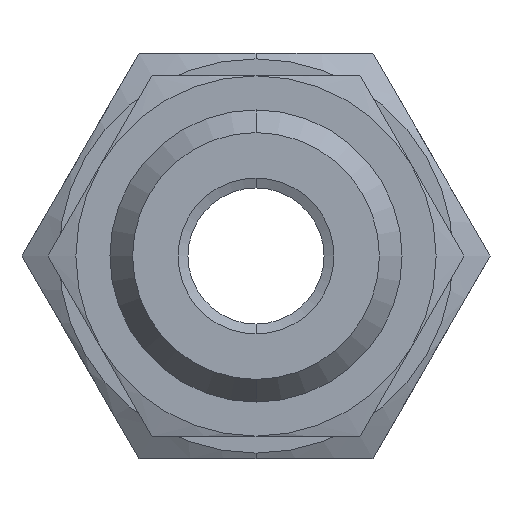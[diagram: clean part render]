
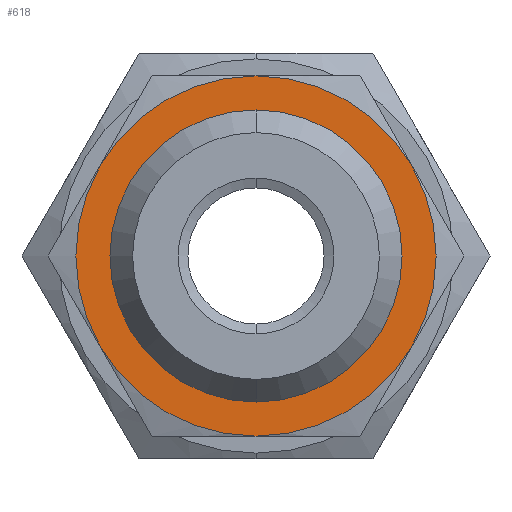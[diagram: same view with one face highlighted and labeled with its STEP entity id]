
A CAD part, left-side view. The second image highlights one B-rep face of the part: STEP entity #618.
In plain terms, the highlighted planar face has unit normal (-1, 0, 0).
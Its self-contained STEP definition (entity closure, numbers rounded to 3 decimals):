
#6 = VERTEX_POINT ( 'NONE', #566 ) ;
#85 = VERTEX_POINT ( 'NONE', #715 ) ;
#162 = VERTEX_POINT ( 'NONE', #749 ) ;
#167 = EDGE_CURVE ( 'NONE', #162, #168, #742, .T. ) ;
#168 = VERTEX_POINT ( 'NONE', #737 ) ;
#258 = VERTEX_POINT ( 'NONE', #1034 ) ;
#265 = VERTEX_POINT ( 'NONE', #1100 ) ;
#271 = VERTEX_POINT ( 'NONE', #1158 ) ;
#368 = VERTEX_POINT ( 'NONE', #1412 ) ;
#413 = EDGE_CURVE ( 'NONE', #258, #6, #1229, .T. ) ;
#420 = EDGE_CURVE ( 'NONE', #271, #258, #1223, .T. ) ;
#481 = EDGE_CURVE ( 'NONE', #85, #265, #1454, .T. ) ;
#487 = EDGE_CURVE ( 'NONE', #6, #85, #1443, .T. ) ;
#545 = EDGE_CURVE ( 'NONE', #368, #271, #1561, .T. ) ;
#550 = EDGE_CURVE ( 'NONE', #265, #368, #1550, .T. ) ;
#566 = CARTESIAN_POINT ( 'NONE',  ( 0., 0., -6.35 ) ) ;
#573 = ORIENTED_EDGE ( 'NONE', *, *, #420, .T. ) ;
#613 = EDGE_CURVE ( 'NONE', #168, #162, #1483, .T. ) ;
#614 = EDGE_LOOP ( 'NONE', ( #619, #620 ) ) ;
#618 = ADVANCED_FACE ( 'NONE', ( #1473, #1472 ), #1471, .F. ) ;
#619 = ORIENTED_EDGE ( 'NONE', *, *, #613, .F. ) ;
#620 = ORIENTED_EDGE ( 'NONE', *, *, #167, .F. ) ;
#621 = EDGE_LOOP ( 'NONE', ( #622, #623, #624, #625, #626, #573 ) ) ;
#622 = ORIENTED_EDGE ( 'NONE', *, *, #413, .T. ) ;
#623 = ORIENTED_EDGE ( 'NONE', *, *, #487, .T. ) ;
#624 = ORIENTED_EDGE ( 'NONE', *, *, #481, .T. ) ;
#625 = ORIENTED_EDGE ( 'NONE', *, *, #550, .T. ) ;
#626 = ORIENTED_EDGE ( 'NONE', *, *, #545, .T. ) ;
#715 = CARTESIAN_POINT ( 'NONE',  ( 0., -5.499, -3.175 ) ) ;
#737 = CARTESIAN_POINT ( 'NONE',  ( 0., 0., -5.15 ) ) ;
#738 = DIRECTION ( 'NONE',  ( 0., 0., -1. ) ) ;
#739 = DIRECTION ( 'NONE',  ( -1., 0., 0. ) ) ;
#740 = CARTESIAN_POINT ( 'NONE',  ( 0., 0., 0. ) ) ;
#741 = AXIS2_PLACEMENT_3D ( 'NONE', #740, #739, #738 ) ;
#742 = CIRCLE ( 'NONE', #741, 5.15 ) ;
#749 = CARTESIAN_POINT ( 'NONE',  ( 0., 0., 5.15 ) ) ;
#1034 = CARTESIAN_POINT ( 'NONE',  ( 0., 5.499, -3.175 ) ) ;
#1100 = CARTESIAN_POINT ( 'NONE',  ( 0., -5.499, 3.175 ) ) ;
#1158 = CARTESIAN_POINT ( 'NONE',  ( 0., 5.499, 3.175 ) ) ;
#1223 = CIRCLE ( 'NONE', #1340, 6.35 ) ;
#1225 = DIRECTION ( 'NONE',  ( 0., 0., 1. ) ) ;
#1226 = DIRECTION ( 'NONE',  ( -1., 0., 0. ) ) ;
#1227 = CARTESIAN_POINT ( 'NONE',  ( 0., 0., 0. ) ) ;
#1228 = AXIS2_PLACEMENT_3D ( 'NONE', #1227, #1226, #1225 ) ;
#1229 = CIRCLE ( 'NONE', #1228, 6.35 ) ;
#1337 = DIRECTION ( 'NONE',  ( 0., 0., 1. ) ) ;
#1338 = DIRECTION ( 'NONE',  ( -1., 0., 0. ) ) ;
#1339 = CARTESIAN_POINT ( 'NONE',  ( 0., 0., 0. ) ) ;
#1340 = AXIS2_PLACEMENT_3D ( 'NONE', #1339, #1338, #1337 ) ;
#1412 = CARTESIAN_POINT ( 'NONE',  ( 0., 0., 6.35 ) ) ;
#1435 = DIRECTION ( 'NONE',  ( 0., 0., 1. ) ) ;
#1436 = DIRECTION ( 'NONE',  ( -1., 0., 0. ) ) ;
#1437 = CARTESIAN_POINT ( 'NONE',  ( 0., 0., 0. ) ) ;
#1438 = AXIS2_PLACEMENT_3D ( 'NONE', #1437, #1436, #1435 ) ;
#1443 = CIRCLE ( 'NONE', #1438, 6.35 ) ;
#1446 = DIRECTION ( 'NONE',  ( 0., 0., 1. ) ) ;
#1447 = DIRECTION ( 'NONE',  ( -1., 0., 0. ) ) ;
#1448 = CARTESIAN_POINT ( 'NONE',  ( 0., 0., 0. ) ) ;
#1449 = AXIS2_PLACEMENT_3D ( 'NONE', #1448, #1447, #1446 ) ;
#1454 = CIRCLE ( 'NONE', #1449, 6.35 ) ;
#1466 = DIRECTION ( 'NONE',  ( 0., 0., -1. ) ) ;
#1467 = DIRECTION ( 'NONE',  ( 1., 0., 0. ) ) ;
#1468 = AXIS2_PLACEMENT_3D ( 'NONE', #1470, #1467, #1466 ) ;
#1470 = CARTESIAN_POINT ( 'NONE',  ( 0., 7.332, 0. ) ) ;
#1471 = PLANE ( 'NONE',  #1468 ) ;
#1472 = FACE_OUTER_BOUND ( 'NONE', #621, .T. ) ;
#1473 = FACE_BOUND ( 'NONE', #614, .T. ) ;
#1479 = DIRECTION ( 'NONE',  ( 0., 0., -1. ) ) ;
#1480 = DIRECTION ( 'NONE',  ( -1., 0., 0. ) ) ;
#1481 = CARTESIAN_POINT ( 'NONE',  ( 0., 0., 0. ) ) ;
#1482 = AXIS2_PLACEMENT_3D ( 'NONE', #1481, #1480, #1479 ) ;
#1483 = CIRCLE ( 'NONE', #1482, 5.15 ) ;
#1542 = DIRECTION ( 'NONE',  ( 0., 0., 1. ) ) ;
#1543 = DIRECTION ( 'NONE',  ( -1., 0., 0. ) ) ;
#1544 = CARTESIAN_POINT ( 'NONE',  ( 0., 0., 0. ) ) ;
#1545 = AXIS2_PLACEMENT_3D ( 'NONE', #1544, #1543, #1542 ) ;
#1550 = CIRCLE ( 'NONE', #1545, 6.35 ) ;
#1553 = DIRECTION ( 'NONE',  ( 0., 0., 1. ) ) ;
#1554 = DIRECTION ( 'NONE',  ( -1., 0., 0. ) ) ;
#1555 = CARTESIAN_POINT ( 'NONE',  ( 0., 0., 0. ) ) ;
#1556 = AXIS2_PLACEMENT_3D ( 'NONE', #1555, #1554, #1553 ) ;
#1561 = CIRCLE ( 'NONE', #1556, 6.35 ) ;
